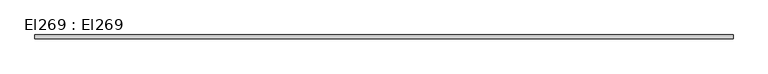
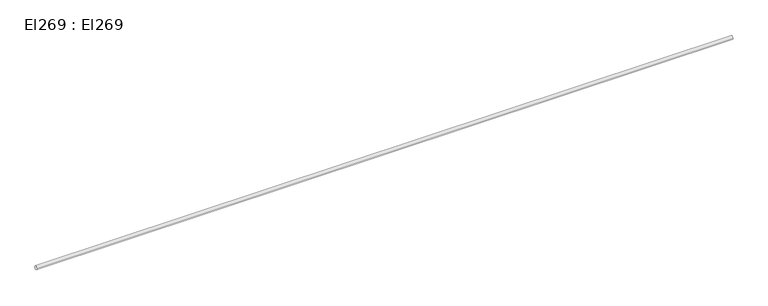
"""IFC4 building model written with IfcOpenShell, lengths in millimetres: cable carrier segment geometry, El269 : El269."""

from ifc_helpers import new_model, si_unit, point, frame, frame_2d, origin, place, context, project, spatial, circle_curve, trimmed, segment, composite_curve, outline, extrude, source, transform, mapped, element, save


def el269_el269_6b186eef(model_context):
    return source(origin(), model_context, "Body", "SweptSolid", [
        extrude(outline(composite_curve([segment(trimmed(circle_curve(frame_2d((29102.8, 2950.0)), 9.5), [point((29093.3, 2950.0))], [point((29112.3, 2950.0))], False, "CARTESIAN"), True, "CONTINUOUS"), segment(trimmed(circle_curve(frame_2d((29102.8, 2950.0)), 9.5), [point((29112.3, 2950.0))], [point((29093.3, 2950.0))], False, "CARTESIAN"), True, "CONTINUOUS")], self_intersect=False)), frame((7844.94, 0.0, 0.0), z_axis=(1.0, 0.0, 0.0), x_axis=(0.0, 1.0, 0.0)), (0.0, 0.0, 1.0), 3395.51),
    ])


if __name__ == "__main__":
    model = new_model("IFC4")
    model_context = context("Model", 3, world=origin())
    ifc_project = project(units=[si_unit("LENGTHUNIT", "METRE", prefix="MILLI")], contexts=[model_context])
    site = spatial("IfcSite", under=ifc_project)
    building = spatial("IfcBuilding", under=site)
    placement = place(None, origin())
    el269_el269_shape = el269_el269_6b186eef(model_context)
    element("IfcCableCarrierSegment", 1, ObjectType="El269 : El269", at=placement, inside=building, context=model_context, shape_type="MappedRepresentation", body=[
        mapped(el269_el269_shape, transform((0.0, 0.0, 0.0), x_axis=(1.0, 0.0, 0.0), y_axis=(0.0, 1.0, 0.0), z_axis=(0.0, 0.0, 1.0))),
    ])
    save(model, "model.ifc")
